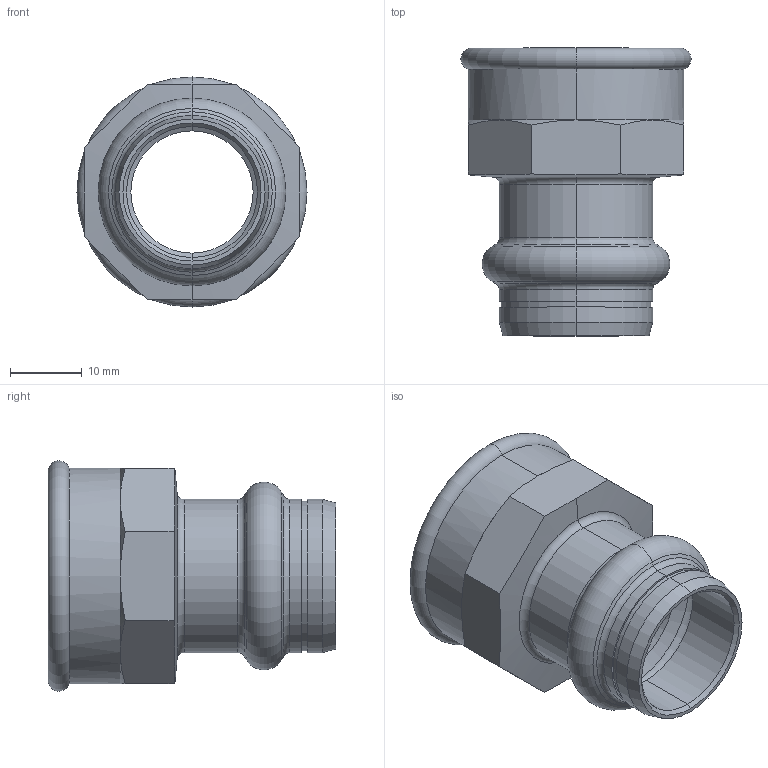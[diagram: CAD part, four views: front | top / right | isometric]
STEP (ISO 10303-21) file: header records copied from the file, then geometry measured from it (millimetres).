
FILE_DESCRIPTION (( 'STEP AP203' ), '1' );
FILE_NAME ('SP4270G Ø18 3-4.STEP', '2017-04-26T08:26:03', ( '' ), ( '' ), 'SwSTEP 2.0', 'SolidWorks 2016', '' );
FILE_SCHEMA (( 'CONFIG_CONTROL_DESIGN' ));
Length unit declared in the file: millimetre
Products named in the file (1): SP4270G Ø18 3-4
Bounding box: 31.99 x 40 x 31.99 mm (x, y, z)
Volume: 7724.2 mm3; surface area: 7184.9 mm2
Topology: 1 solids, 1 shells, 68 faces, 144 edges, 82 vertices
Faces by surface type: cone 24, cylinder 18, plane 14, torus 12
Entity records: 1971 total; most frequent: CARTESIAN_POINT 429, DIRECTION 332, ORIENTED_EDGE 288, AXIS2_PLACEMENT_3D 145, EDGE_CURVE 144, VERTEX_POINT 82, CIRCLE 76, EDGE_LOOP 74
